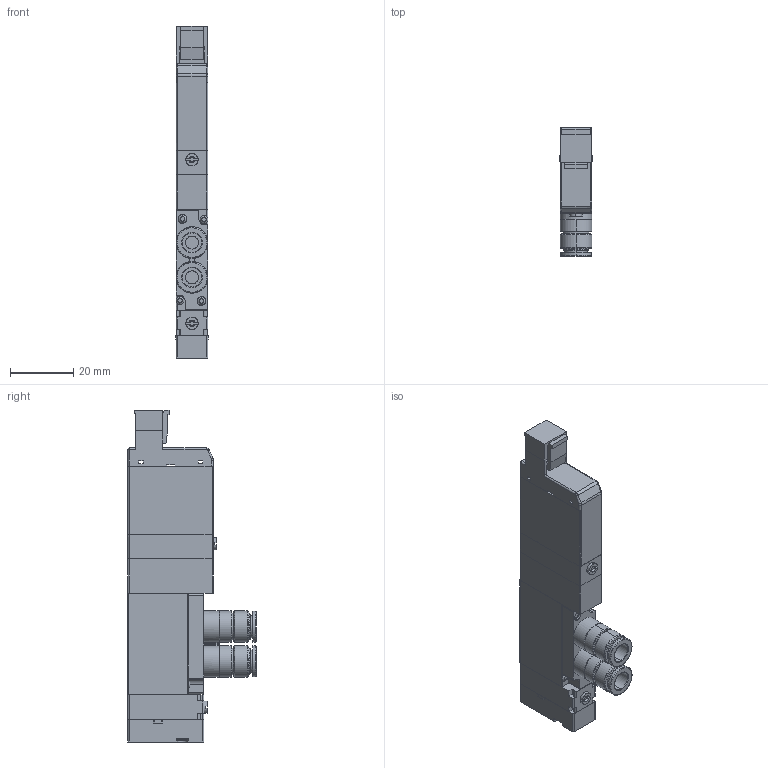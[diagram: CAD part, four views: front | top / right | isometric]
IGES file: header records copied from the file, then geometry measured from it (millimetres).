
Start section: ------------------------------------------------------------------------
Global section: file name: D:\ICADMX\tmp\trans3d_spg\CVICAD02.18204.F10T2-FJ-PS_8713.igs; native system: spGate; preprocessor: ver12.6.6; author: Unknown; organization: Unknown; date: 200901.142510; units: millimetre
Bounding box: 10.2 x 40.5 x 105 mm (x, y, z)
Volume: 26216.7 mm3; surface area: 13046 mm2
Topology: 7 solids, 7 shells, 375 faces, 922 edges, 588 vertices
Faces by surface type: bspline 375
